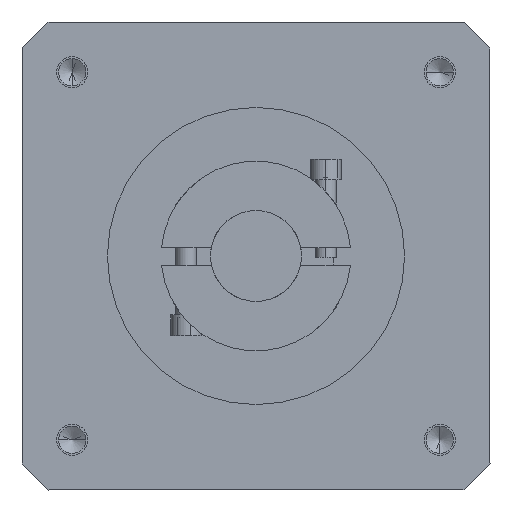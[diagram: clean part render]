
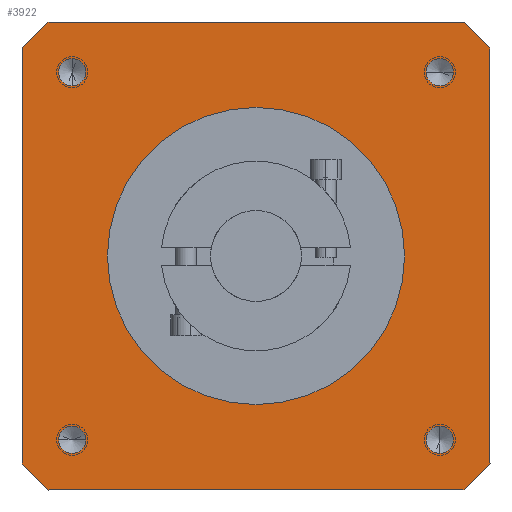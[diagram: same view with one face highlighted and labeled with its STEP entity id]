
A CAD part, left-side view. The second image highlights one B-rep face of the part: STEP entity #3922.
In plain terms, the highlighted planar face has unit normal (-1, 0, 0) as drawn and (0, -1, 0) by its records, which use the part's own axes.
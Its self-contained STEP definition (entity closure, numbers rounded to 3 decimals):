
#3449=DIRECTION('',(-0.707,0.,0.707));
#3450=VECTOR('',#3449,14.142);
#3451=CARTESIAN_POINT('',(-80.,0.,-90.));
#3452=LINE('',#3451,#3450);
#3453=DIRECTION('',(0.,0.,1.));
#3454=VECTOR('',#3453,160.);
#3455=CARTESIAN_POINT('',(-90.,0.,-80.));
#3456=LINE('',#3455,#3454);
#3457=DIRECTION('',(0.707,0.,0.707));
#3458=VECTOR('',#3457,14.142);
#3459=CARTESIAN_POINT('',(-90.,0.,80.));
#3460=LINE('',#3459,#3458);
#3461=DIRECTION('',(1.,0.,0.));
#3462=VECTOR('',#3461,160.);
#3463=CARTESIAN_POINT('',(-80.,0.,90.));
#3464=LINE('',#3463,#3462);
#3465=DIRECTION('',(0.707,0.,-0.707));
#3466=VECTOR('',#3465,14.142);
#3467=CARTESIAN_POINT('',(80.,0.,90.));
#3468=LINE('',#3467,#3466);
#3469=DIRECTION('',(0.,0.,-1.));
#3470=VECTOR('',#3469,160.);
#3471=CARTESIAN_POINT('',(90.,0.,80.));
#3472=LINE('',#3471,#3470);
#3473=DIRECTION('',(-0.707,0.,-0.707));
#3474=VECTOR('',#3473,14.142);
#3475=CARTESIAN_POINT('',(90.,0.,-80.));
#3476=LINE('',#3475,#3474);
#3477=DIRECTION('',(-1.,0.,0.));
#3478=VECTOR('',#3477,160.);
#3479=CARTESIAN_POINT('',(80.,0.,-90.));
#3480=LINE('',#3479,#3478);
#3481=CARTESIAN_POINT('',(0.,0.,0.));
#3482=DIRECTION('',(0.,-1.,0.));
#3483=DIRECTION('',(-1.,0.,0.));
#3484=AXIS2_PLACEMENT_3D('',#3481,#3482,#3483);
#3486=CARTESIAN_POINT('',(0.,0.,0.));
#3487=DIRECTION('',(0.,-1.,0.));
#3488=DIRECTION('',(1.,0.,0.));
#3489=AXIS2_PLACEMENT_3D('',#3486,#3487,#3488);
#3491=CARTESIAN_POINT('',(-70.7,0.,-70.7));
#3492=DIRECTION('',(0.,-1.,0.));
#3493=DIRECTION('',(-1.,0.,0.));
#3494=AXIS2_PLACEMENT_3D('',#3491,#3492,#3493);
#3496=CARTESIAN_POINT('',(-70.7,0.,-70.7));
#3497=DIRECTION('',(0.,-1.,0.));
#3498=DIRECTION('',(1.,0.,0.));
#3499=AXIS2_PLACEMENT_3D('',#3496,#3497,#3498);
#3501=CARTESIAN_POINT('',(70.7,0.,-70.7));
#3502=DIRECTION('',(0.,-1.,0.));
#3503=DIRECTION('',(0.,0.,-1.));
#3504=AXIS2_PLACEMENT_3D('',#3501,#3502,#3503);
#3506=CARTESIAN_POINT('',(70.7,0.,-70.7));
#3507=DIRECTION('',(0.,-1.,0.));
#3508=DIRECTION('',(0.,0.,1.));
#3509=AXIS2_PLACEMENT_3D('',#3506,#3507,#3508);
#3511=CARTESIAN_POINT('',(70.7,0.,70.7));
#3512=DIRECTION('',(0.,-1.,0.));
#3513=DIRECTION('',(1.,0.,0.));
#3514=AXIS2_PLACEMENT_3D('',#3511,#3512,#3513);
#3516=CARTESIAN_POINT('',(70.7,0.,70.7));
#3517=DIRECTION('',(0.,-1.,0.));
#3518=DIRECTION('',(-1.,0.,0.));
#3519=AXIS2_PLACEMENT_3D('',#3516,#3517,#3518);
#3521=CARTESIAN_POINT('',(-70.7,0.,70.7));
#3522=DIRECTION('',(0.,-1.,0.));
#3523=DIRECTION('',(0.,0.,1.));
#3524=AXIS2_PLACEMENT_3D('',#3521,#3522,#3523);
#3526=CARTESIAN_POINT('',(-70.7,0.,70.7));
#3527=DIRECTION('',(0.,-1.,0.));
#3528=DIRECTION('',(0.,0.,-1.));
#3529=AXIS2_PLACEMENT_3D('',#3526,#3527,#3528);
#3773=CARTESIAN_POINT('',(-80.,0.,-90.));
#3774=CARTESIAN_POINT('',(-90.,0.,-80.));
#3775=VERTEX_POINT('',#3773);
#3776=VERTEX_POINT('',#3774);
#3777=CARTESIAN_POINT('',(-90.,0.,80.));
#3778=VERTEX_POINT('',#3777);
#3779=CARTESIAN_POINT('',(-80.,0.,90.));
#3780=VERTEX_POINT('',#3779);
#3781=CARTESIAN_POINT('',(80.,0.,90.));
#3782=VERTEX_POINT('',#3781);
#3783=CARTESIAN_POINT('',(90.,0.,80.));
#3784=VERTEX_POINT('',#3783);
#3785=CARTESIAN_POINT('',(90.,0.,-80.));
#3786=VERTEX_POINT('',#3785);
#3787=CARTESIAN_POINT('',(80.,0.,-90.));
#3788=VERTEX_POINT('',#3787);
#3793=CARTESIAN_POINT('',(-57.15,0.,0.));
#3794=CARTESIAN_POINT('',(57.15,0.,0.));
#3795=VERTEX_POINT('',#3793);
#3796=VERTEX_POINT('',#3794);
#3827=CARTESIAN_POINT('',(-75.95,0.,-70.7));
#3828=CARTESIAN_POINT('',(-65.45,0.,-70.7));
#3829=VERTEX_POINT('',#3827);
#3830=VERTEX_POINT('',#3828);
#3837=CARTESIAN_POINT('',(70.7,0.,-75.95));
#3838=CARTESIAN_POINT('',(70.7,0.,-65.45));
#3839=VERTEX_POINT('',#3837);
#3840=VERTEX_POINT('',#3838);
#3847=CARTESIAN_POINT('',(75.95,0.,70.7));
#3848=CARTESIAN_POINT('',(65.45,0.,70.7));
#3849=VERTEX_POINT('',#3847);
#3850=VERTEX_POINT('',#3848);
#3857=CARTESIAN_POINT('',(-70.7,0.,75.95));
#3858=CARTESIAN_POINT('',(-70.7,0.,65.45));
#3859=VERTEX_POINT('',#3857);
#3860=VERTEX_POINT('',#3858);
#3869=CARTESIAN_POINT('',(0.,0.,0.));
#3870=DIRECTION('',(0.,1.,0.));
#3871=DIRECTION('',(1.,0.,0.));
#3872=AXIS2_PLACEMENT_3D('',#3869,#3870,#3871);
#3873=PLANE('',#3872);
#3875=ORIENTED_EDGE('',*,*,#3874,.T.);
#3877=ORIENTED_EDGE('',*,*,#3876,.T.);
#3879=ORIENTED_EDGE('',*,*,#3878,.T.);
#3881=ORIENTED_EDGE('',*,*,#3880,.T.);
#3883=ORIENTED_EDGE('',*,*,#3882,.T.);
#3885=ORIENTED_EDGE('',*,*,#3884,.T.);
#3887=ORIENTED_EDGE('',*,*,#3886,.T.);
#3889=ORIENTED_EDGE('',*,*,#3888,.T.);
#3890=EDGE_LOOP('',(#3875,#3877,#3879,#3881,#3883,#3885,#3887,#3889));
#3891=FACE_OUTER_BOUND('',#3890,.F.);
#3893=ORIENTED_EDGE('',*,*,#3892,.T.);
#3895=ORIENTED_EDGE('',*,*,#3894,.T.);
#3896=EDGE_LOOP('',(#3893,#3895));
#3897=FACE_BOUND('',#3896,.F.);
#3899=ORIENTED_EDGE('',*,*,#3898,.T.);
#3901=ORIENTED_EDGE('',*,*,#3900,.T.);
#3902=EDGE_LOOP('',(#3899,#3901));
#3903=FACE_BOUND('',#3902,.F.);
#3905=ORIENTED_EDGE('',*,*,#3904,.T.);
#3907=ORIENTED_EDGE('',*,*,#3906,.T.);
#3908=EDGE_LOOP('',(#3905,#3907));
#3909=FACE_BOUND('',#3908,.F.);
#3911=ORIENTED_EDGE('',*,*,#3910,.T.);
#3913=ORIENTED_EDGE('',*,*,#3912,.T.);
#3914=EDGE_LOOP('',(#3911,#3913));
#3915=FACE_BOUND('',#3914,.F.);
#3917=ORIENTED_EDGE('',*,*,#3916,.T.);
#3919=ORIENTED_EDGE('',*,*,#3918,.T.);
#3920=EDGE_LOOP('',(#3917,#3919));
#3921=FACE_BOUND('',#3920,.F.);
#3485=CIRCLE('',#3484,57.15);
#3490=CIRCLE('',#3489,57.15);
#3495=CIRCLE('',#3494,5.25);
#3500=CIRCLE('',#3499,5.25);
#3505=CIRCLE('',#3504,5.25);
#3510=CIRCLE('',#3509,5.25);
#3515=CIRCLE('',#3514,5.25);
#3520=CIRCLE('',#3519,5.25);
#3525=CIRCLE('',#3524,5.25);
#3530=CIRCLE('',#3529,5.25);
#3874=EDGE_CURVE('',#3775,#3776,#3452,.T.);
#3876=EDGE_CURVE('',#3776,#3778,#3456,.T.);
#3878=EDGE_CURVE('',#3778,#3780,#3460,.T.);
#3880=EDGE_CURVE('',#3780,#3782,#3464,.T.);
#3882=EDGE_CURVE('',#3782,#3784,#3468,.T.);
#3884=EDGE_CURVE('',#3784,#3786,#3472,.T.);
#3886=EDGE_CURVE('',#3786,#3788,#3476,.T.);
#3888=EDGE_CURVE('',#3788,#3775,#3480,.T.);
#3892=EDGE_CURVE('',#3795,#3796,#3485,.T.);
#3894=EDGE_CURVE('',#3796,#3795,#3490,.T.);
#3898=EDGE_CURVE('',#3829,#3830,#3495,.T.);
#3900=EDGE_CURVE('',#3830,#3829,#3500,.T.);
#3904=EDGE_CURVE('',#3839,#3840,#3505,.T.);
#3906=EDGE_CURVE('',#3840,#3839,#3510,.T.);
#3910=EDGE_CURVE('',#3849,#3850,#3515,.T.);
#3912=EDGE_CURVE('',#3850,#3849,#3520,.T.);
#3916=EDGE_CURVE('',#3859,#3860,#3525,.T.);
#3918=EDGE_CURVE('',#3860,#3859,#3530,.T.);
#3922=ADVANCED_FACE('',(#3891,#3897,#3903,#3909,#3915,#3921),#3873,.F.);
